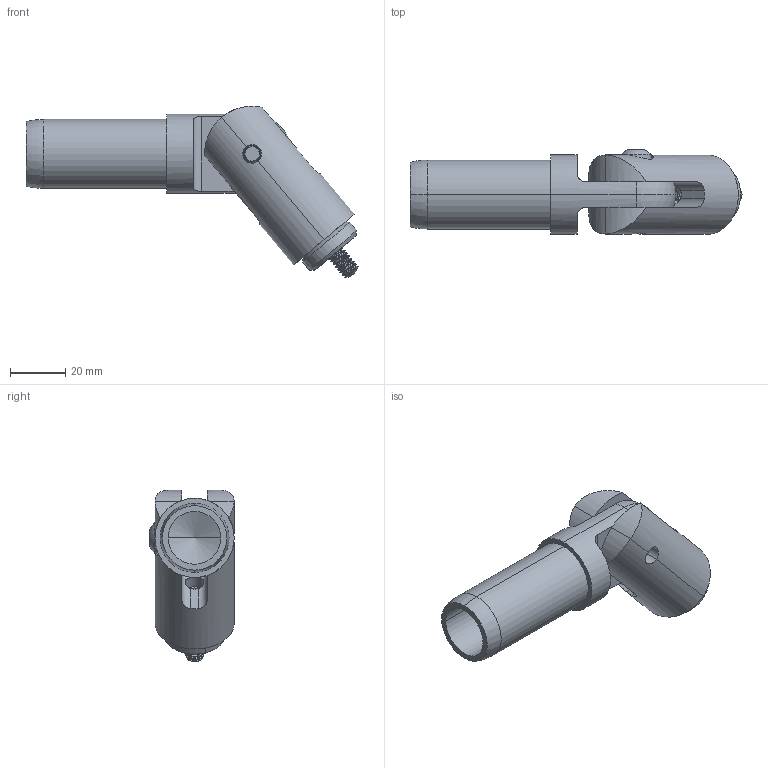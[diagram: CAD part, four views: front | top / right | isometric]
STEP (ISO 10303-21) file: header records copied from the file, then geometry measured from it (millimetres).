
FILE_DESCRIPTION (( 'STEP AP214' ), '1' );
FILE_NAME ('Adjustable Camera Mount for 1 Inch Tube.STEP', '2014-01-10T16:42:45', ( 'ydmin' ), ( 'Microsoft' ), 'SwSTEP 2.0', 'SolidWorks 2013', '' );
FILE_SCHEMA (( 'AUTOMOTIVE_DESIGN' ));
Length unit declared in the file: inch
Products named in the file (1): Adjustable Camera Mount for 1 Inch Tube
Bounding box: 119.91 x 30.47 x 61.88 mm (x, y, z)
Volume: 52583 mm3; surface area: 22849.2 mm2
Topology: 6 solids, 6 shells, 446 faces, 941 edges, 506 vertices
Faces by surface type: cone 194, cylinder 191, plane 45, bspline 8, sphere 6, torus 2
Entity records: 23893 total; most frequent: CARTESIAN_POINT 8927, ORIENTED_EDGE 1874, DIRECTION 1864, EDGE_CURVE 937, AXIS2_PLACEMENT_3D 721, VERTEX_POINT 506, EDGE_LOOP 459, DIMENSIONAL_EXPONENTS 454
